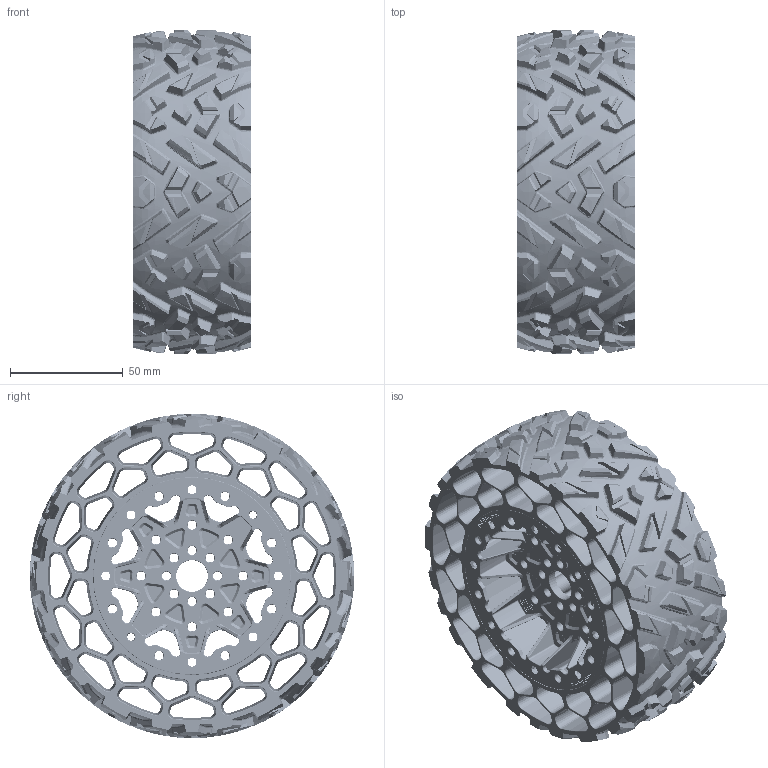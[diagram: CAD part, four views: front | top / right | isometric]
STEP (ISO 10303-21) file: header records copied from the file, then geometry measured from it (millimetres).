
FILE_DESCRIPTION(/* description */ (''),/* implementation_level */ '2;1');
FILE_NAME(/* name */ 'R:/Shared/Solidworks Files/(2) goBILDA/36 Wheels/3616 Series Wheels/Off to Quote/STEP Files/3616-0014-0144 Assembly.step',/* time_stamp */ '2022-04-29T13:40:03-05:00',/* author */ (''),/* organization */ (''),/* preprocessor_version */ 'ST-DEVELOPER v18.1',/* originating_system */ 'Autodesk Translation Framework v10.14.0.1471',/* authorisation */ '');
FILE_SCHEMA (('AUTOMOTIVE_DESIGN { 1 0 10303 214 3 1 1 }'));
Products named in the file (3): Main V0.6; Rubber V0.5 88mm; Rim 88mm V13
Assembly tree (2 placements, depth 2):
  Main V0.6
    Rubber V0.5 88mm
    Rim 88mm V13
Bounding box: 52 x 144 x 144 mm (x, y, z)
Volume: 299021.8 mm3; surface area: 188780.8 mm2
Topology: 2 solids, 2 shells, 8305 faces, 20644 edges, 12354 vertices
Faces by surface type: bspline 3913, torus 1286, plane 1201, cylinder 1128, cone 777
Full cylindrical faces by diameter (mm): 1.35 x12, 3.3 x8, 4 x24, 14 x1, 88 x2, 135 x1
Entity records: 314989 total; most frequent: CARTESIAN_POINT 142359, ORIENTED_EDGE 41080, DIRECTION 29272, EDGE_CURVE 20540, AXIS2_PLACEMENT_3D 12605, VERTEX_POINT 12354, EDGE_LOOP 8568, FACE_OUTER_BOUND 8305
